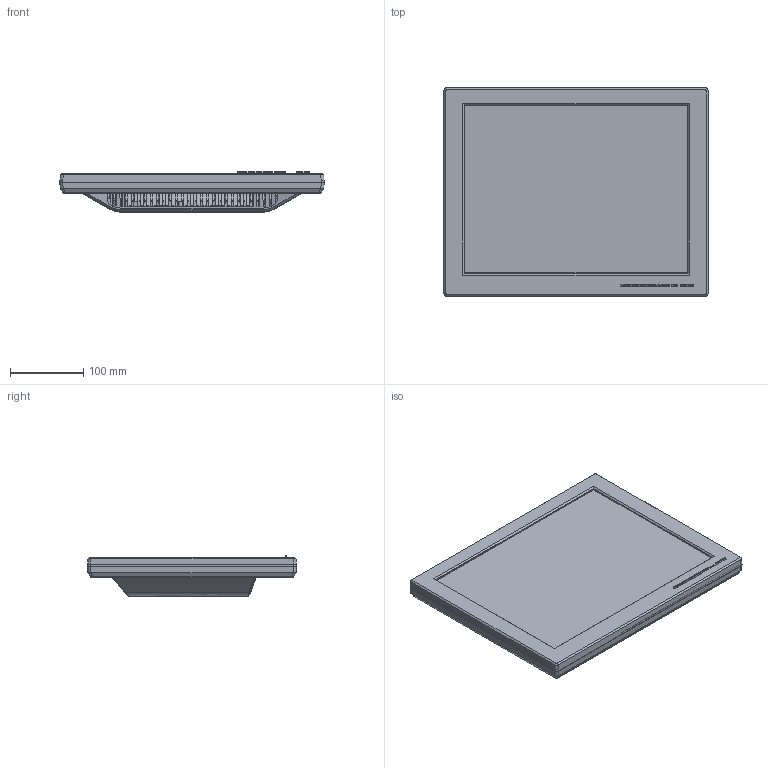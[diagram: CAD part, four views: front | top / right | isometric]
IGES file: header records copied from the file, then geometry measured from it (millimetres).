
Global section: file name: FIE15DM; native system: AutoCAD 2019 – 繁體中文 (Traditional Chinese),62HAutode; preprocessor: sk Translation Framework DWG producer (atf_dwg_producer); organization: unknown; date: 20210615.104440; units: millimetre
Bounding box: 361.4 x 285.4 x 55.02 mm (x, y, z)
Volume: 1255318.8 mm3; surface area: 694515.4 mm2
Topology: 6 solids, 7 shells, 1777 faces, 5276 edges, 3421 vertices
Faces by surface type: bspline 1777
